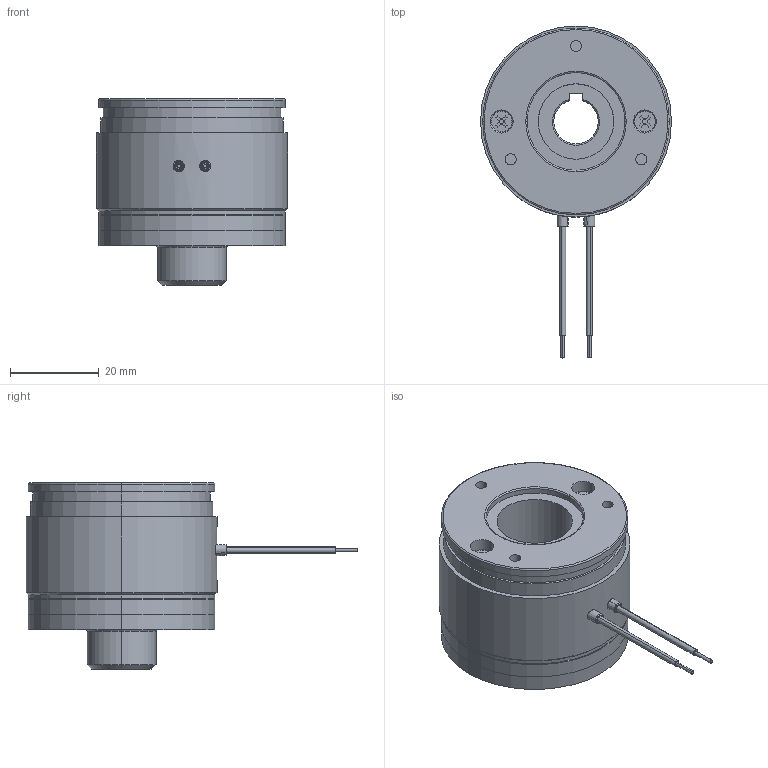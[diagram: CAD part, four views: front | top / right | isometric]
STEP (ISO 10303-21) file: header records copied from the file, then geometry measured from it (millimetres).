
FILE_DESCRIPTION (( 'STEP AP214' ), '1' );
FILE_NAME ('04P1330.STEP', '2026-04-23T06:21:27', ( '' ), ( '' ), 'SwSTEP 2.0', 'SolidWorks 2025', '' );
FILE_SCHEMA (( 'AUTOMOTIVE_DESIGN' ));
Length unit declared in the file: millimetre
Products named in the file (10): 10088625swp000; 10088629swp000; 10088633swa000; 10088624swp000; 10088626swp000_Einbaulänge 2,15mm; 10088632swp000; 10088627swa000; 10088626swp000_genietet (2,35mm Klemmlänge); 10088628swp000; 04P1330
Assembly tree (18 placements, depth 4):
  04P1330
    10088624swp000
    10088633swa000
      10088632swp000
      10088627swa000
        10088628swp000
        10088625swp000
        10088626swp000_genietet (2,35mm Klemmlänge)  x3
        10088629swp000  x3
      10088626swp000_Einbaulänge 2,15mm  x3
      10088629swp000  x3
Bounding box: 43 x 74.7 x 41.87 mm (x, y, z)
Volume: 38819.5 mm3; surface area: 17738.4 mm2
Topology: 18 solids, 18 shells, 381 faces, 856 edges, 524 vertices
Faces by surface type: cylinder 161, cone 94, plane 74, torus 40, sphere 12
Entity records: 8193 total; most frequent: DIRECTION 1516, CARTESIAN_POINT 1434, ORIENTED_EDGE 1216, AXIS2_PLACEMENT_3D 630, EDGE_CURVE 608, VERTEX_POINT 380, CIRCLE 340, EDGE_LOOP 334
